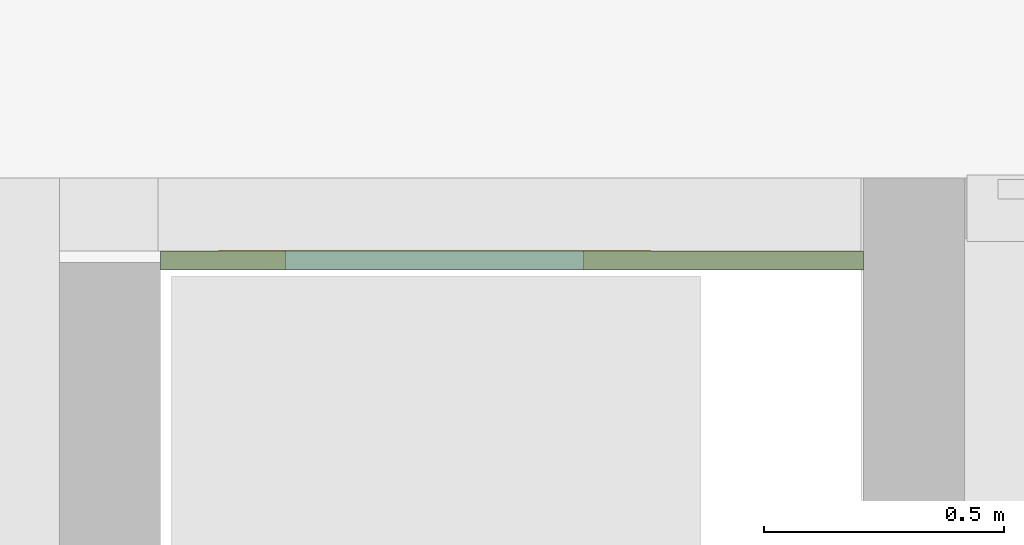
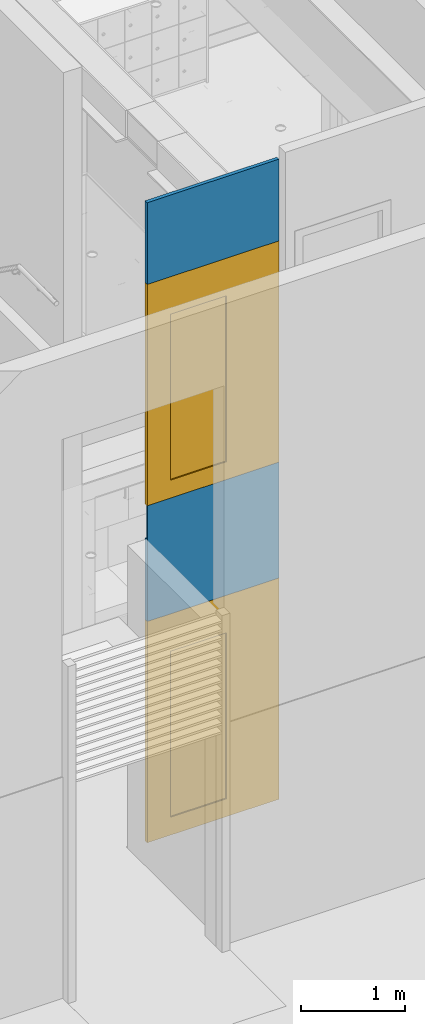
# One storey, part 60 of 347: 2 doors, 1 wall, 2 openings.
"""IFC2X3 building model written with IfcOpenShell, lengths in millimetres."""

from ifc_helpers import new_model, entity, si_unit, converted_unit, derived_unit, money_unit, direction, frame, origin_with_axes, place, context, subcontext, project, spatial, open_shell, faceted_brep, surface_model, source, transform, mapped, material, type_object, type_shapes, element, fill, save


model = new_model("IFC2X3")

# Units and contexts
model_context = context("Model", 3, precision=0.01, world=origin_with_axes(), true_north=direction((0.0, 1.0)))
plan_context = context("Plan", 3, precision=0.01, world=origin_with_axes(), true_north=direction((0.0, 1.0)))
body_context = subcontext(model_context, "Body", "Model", "MODEL_VIEW")
ifc_project = project(units=[si_unit("LENGTHUNIT", "METRE", prefix="MILLI"), si_unit("AREAUNIT", "SQUARE_METRE"), si_unit("VOLUMEUNIT", "CUBIC_METRE"), converted_unit("PLANEANGLEUNIT", "DEGREE", entity("IfcPlaneAngleMeasure", 0.0174532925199), si_unit("PLANEANGLEUNIT", "RADIAN"), dimensions=[0, 0, 0, 0, 0, 0, 0]), money_unit("EUR"), converted_unit("TIMEUNIT", "Year", entity("IfcTimeMeasure", 31556926.0), si_unit("TIMEUNIT", "SECOND"), dimensions=[0, 0, 1, 0, 0, 0, 0]), si_unit("MASSUNIT", "GRAM", prefix="KILO"), si_unit("THERMODYNAMICTEMPERATUREUNIT", "DEGREE_CELSIUS"), si_unit("LUMINOUSINTENSITYUNIT", "LUMEN"), si_unit("ENERGYUNIT", "JOULE", prefix="MEGA"), derived_unit("THERMALCONDUCTANCEUNIT", [(si_unit("POWERUNIT", "WATT"), 1), (si_unit("LENGTHUNIT", "METRE"), -1), (si_unit("THERMODYNAMICTEMPERATUREUNIT", "KELVIN"), -1)]), derived_unit("SPECIFICHEATCAPACITYUNIT", [(si_unit("ENERGYUNIT", "JOULE"), 1), (si_unit("MASSUNIT", "GRAM", prefix="KILO"), -1), (si_unit("THERMODYNAMICTEMPERATUREUNIT", "KELVIN"), -1)]), derived_unit("MASSDENSITYUNIT", [(si_unit("MASSUNIT", "GRAM", prefix="KILO"), 1), (si_unit("VOLUMEUNIT", "CUBIC_METRE"), -1)])], contexts=[model_context, plan_context])

# Site, building, storey
site_placement = place(None, origin_with_axes())
site = spatial("IfcSite", under=ifc_project, at=site_placement, Name="Site", CompositionType="ELEMENT")
building_placement = place(site_placement, origin_with_axes())
building = spatial("IfcBuilding", under=site, at=building_placement, Name="Naam gebouw", CompositionType="ELEMENT")
storey_placement = place(building_placement, origin_with_axes())
storey = spatial("IfcBuildingStorey", under=building, at=storey_placement, Name="begane grond", CompositionType="ELEMENT", Elevation=0.0)

# Wall, openings, doors
ifc_material = material(Name="ALG - CONSTRUCTIEF")
wall_type = type_object("IfcWallType", Name="ALG - CONSTRUCTIEF 40", PredefinedType="NOTDEFINED")
wall_placement = place(storey_placement, frame((41185.0, 27823.5, 0.0), z_axis=(0.0, 0.0, 1.0), x_axis=(1.0, 0.0, 0.0)))
wall = element("IfcWall", 1, at=wall_placement, inside=storey, type_object=wall_type, material=ifc_material, Name="22_GF 125 ECO DGS/2.75.2A", context=body_context, shape_type="Brep", body=[
    faceted_brep([(0.0, -23.4999901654, 3960.0), (1462.0, -23.4999901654, 3960.0), (1462.0, -23.4999901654, 3560.0), (0.0, -23.4999901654, 3560.0), (1462.0, -40.0, 3960.0), (0.0, -40.0, 3960.0), (1462.0, -40.0, 2600.0), (1462.0, 0.0, 2600.0), (1462.0, 0.0, 3560.0), (0.0, 0.0, 3560.0), (0.0, 0.0, 2600.0), (0.0, -40.0, 2600.0)], [[[0, 1, 2, 3]], [[4, 1, 0, 5]], [[1, 4, 6, 7, 8, 2]], [[8, 9, 3, 2]], [[5, 0, 3, 9, 10, 11]], [[4, 5, 11, 6]], [[7, 6, 11, 10]], [[10, 9, 8, 7]]]),
    faceted_brep([(1462.0, -40.0, 6560.0), (1462.0, 0.0, 6560.0), (1462.0, 0.0, 7520.0), (1462.0, -40.0, 7520.0), (0.0, 0.0, 6560.0), (0.0, -40.0, 6560.0), (0.0, 0.0, 7520.0), (0.0, -40.0, 7520.0)], [[[0, 1, 2, 3]], [[4, 1, 0, 5]], [[1, 4, 6, 2]], [[3, 2, 6, 7]], [[5, 0, 3, 7]], [[4, 5, 7, 6]]]),
])
opening_1_placement = place(wall_placement, frame((731.0, 0.0, 0.0), z_axis=(0.0, 0.0, 1.0), x_axis=(1.0, 0.0, 0.0)))
opening_1 = element("IfcOpeningElement", 2, at=opening_1_placement, cuts=wall, Name="32_Lift deur", context=body_context, shape_type="Brep", body=[
    faceted_brep([(731.0, -40.0, 2600.0), (731.0, -40.0, 0.0), (731.0, 80.0, 0.0), (731.0, 80.0, 2600.0), (-731.0, -40.0, 2600.0), (-731.0, -40.0, 0.0), (-731.0, 80.0, 0.0), (-731.0, 80.0, 2600.0)], [[[0, 1, 2, 3]], [[0, 4, 5, 1]], [[1, 5, 6, 2]], [[3, 2, 6, 7]], [[4, 0, 3, 7]], [[5, 4, 7, 6]]]),
])
opening_2_placement = place(wall_placement, frame((731.0, 0.0, 3960.0), z_axis=(0.0, 0.0, 1.0), x_axis=(1.0, 0.0, 0.0)))
opening_2 = element("IfcOpeningElement", 3, at=opening_2_placement, cuts=wall, Name="32_Lift deur", context=body_context, shape_type="Brep", body=[
    faceted_brep([(731.0, -40.0, 2600.0), (731.0, -40.0, 0.0), (731.0, 80.0, 0.0), (731.0, 80.0, 2600.0), (-731.0, -40.0, 2600.0), (-731.0, -40.0, 0.0), (-731.0, 80.0, 0.0), (-731.0, 80.0, 2600.0)], [[[0, 1, 2, 3]], [[0, 4, 5, 1]], [[1, 5, 6, 2]], [[3, 2, 6, 7]], [[4, 0, 3, 7]], [[5, 4, 7, 6]]]),
])
door_style = type_object("IfcDoorStyle", Name="D1 25", ConstructionType="NOTDEFINED", OperationType="SINGLE_SWING_RIGHT", ParameterTakesPrecedence=False, Sizeable=False)
shared_shape = source(origin_with_axes(), body_context, "Body", "SurfaceModel", [
    faceted_brep([(289.0, 0.0, 0.0), (289.0, -40.0, 0.0), (-611.0, -40.0, 0.0), (-611.0, 0.0, 0.0), (289.0, 0.0, 10.0), (289.0, -40.0, 10.0), (-611.0, -40.0, 10.0), (-611.0, 0.0, 10.0)], [[[0, 1, 2, 3]], [[0, 4, 5, 1]], [[1, 5, 6, 2]], [[3, 2, 6, 7]], [[4, 0, 3, 7]], [[5, 4, 7, 6]]]),
    faceted_brep([(-731.0, 0.0, 0.0), (-611.0, 0.0, 0.0), (-611.0, -40.0, 0.0), (-731.0, -40.0, 0.0), (-731.0, 0.0, 2300.0), (-611.0, 0.0, 2300.0), (-611.0, -40.0, 2300.0), (-731.0, -40.0, 2300.0)], [[[0, 1, 2, 3]], [[0, 4, 5, 1]], [[1, 5, 6, 2]], [[3, 2, 6, 7]], [[4, 0, 3, 7]], [[5, 4, 7, 6]]]),
    faceted_brep([(731.0, 0.0, 0.0), (731.0, 0.0, 2300.0), (731.0, -40.0, 2300.0), (731.0, -40.0, 0.0), (289.0, 0.0, 0.0), (289.0, 0.0, 2300.0), (289.0, -40.0, 2300.0), (289.0, -40.0, 0.0)], [[[0, 1, 2, 3]], [[0, 4, 5, 1]], [[1, 5, 6, 2]], [[3, 2, 6, 7]], [[4, 0, 3, 7]], [[5, 4, 7, 6]]]),
    faceted_brep([(-731.0, 0.0, 2600.0), (-731.0, 0.0, 2300.0), (-731.0, -40.0, 2300.0), (-731.0, -40.0, 2600.0), (731.0, 0.0, 2600.0), (731.0, 0.0, 2300.0), (289.0, 0.0, 2300.0), (-611.0, 0.0, 2300.0), (-611.0, -40.0, 2300.0), (289.0, -40.0, 2300.0), (731.0, -40.0, 2300.0), (731.0, -40.0, 2600.0)], [[[0, 1, 2, 3]], [[0, 4, 5, 6, 7, 1]], [[1, 7, 8, 2]], [[3, 2, 8, 9, 10, 11]], [[4, 0, 3, 11]], [[5, 4, 11, 10]], [[6, 5, 10, 9]], [[7, 6, 9, 8]]]),
    faceted_brep([(289.0, 1.0, 210.0), (289.0, -40.0, 210.0), (149.0, -40.0, 210.0), (149.0, 1.0, 210.0), (289.0, 1.0, 2160.0), (289.0, -40.0, 2160.0), (149.0, -40.0, 2160.0), (149.0, 1.0, 2160.0)], [[[0, 1, 2, 3]], [[4, 5, 1, 0]], [[1, 5, 6, 2]], [[3, 2, 6, 7]], [[0, 3, 7, 4]], [[7, 6, 5, 4]]]),
    faceted_brep([(-611.0, 1.0, 210.0), (-611.0, -40.0, 210.0), (-611.0, -40.0, 2160.0), (-611.0, 1.0, 2160.0), (-471.0, 1.0, 210.0), (-471.0, -40.0, 210.0), (-471.0, -40.0, 2160.0), (-471.0, 1.0, 2160.0)], [[[0, 1, 2, 3]], [[4, 5, 1, 0]], [[1, 5, 6, 2]], [[3, 2, 6, 7]], [[0, 3, 7, 4]], [[7, 6, 5, 4]]]),
    faceted_brep([(289.0, 1.0, 10.0), (289.0, -40.0, 10.0), (-611.0, -40.0, 10.0), (-611.0, 1.0, 10.0), (289.0, 1.0, 210.0), (289.0, -40.0, 210.0), (149.0, -40.0, 210.0), (-471.0, -40.0, 210.0), (-611.0, -40.0, 210.0), (-611.0, 1.0, 210.0), (-471.0, 1.0, 210.0), (149.0, 1.0, 210.0)], [[[0, 1, 2, 3]], [[4, 5, 1, 0]], [[1, 5, 6, 7, 8, 2]], [[3, 2, 8, 9]], [[0, 3, 9, 10, 11, 4]], [[11, 6, 5, 4]], [[10, 7, 6, 11]], [[9, 8, 7, 10]]]),
    faceted_brep([(289.0, 1.0, 2300.0), (289.0, -40.0, 2300.0), (289.0, -40.0, 2160.0), (289.0, 1.0, 2160.0), (-611.0, 1.0, 2300.0), (-611.0, -40.0, 2300.0), (-611.0, -40.0, 2160.0), (-471.0, -40.0, 2160.0), (149.0, -40.0, 2160.0), (149.0, 1.0, 2160.0), (-471.0, 1.0, 2160.0), (-611.0, 1.0, 2160.0)], [[[0, 1, 2, 3]], [[4, 5, 1, 0]], [[1, 5, 6, 7, 8, 2]], [[3, 2, 8, 9]], [[0, 3, 9, 10, 11, 4]], [[11, 6, 5, 4]], [[10, 7, 6, 11]], [[9, 8, 7, 10]]]),
    surface_model("IfcShellBasedSurfaceModel", [(149.0, -13.5, 210.0), (-471.0, -13.5, 210.0), (-471.0, -13.5, 2160.0), (149.0, -13.5, 2160.0)], [open_shell([[[0, 1, 2, 3]]])]),
    surface_model("IfcShellBasedSurfaceModel", [(149.0, -25.5, 210.0), (149.0, -25.5, 2160.0), (-471.0, -25.5, 2160.0), (-471.0, -25.5, 210.0)], [open_shell([[[0, 1, 2, 3]]])]),
])
type_shapes(door_style, [shared_shape])
door_1_placement = place(opening_1_placement, frame((-731.0, 0.0, 0.0), z_axis=(0.0, 0.0, 1.0), x_axis=(1.0, 0.0, 0.0)))
door_1 = element("IfcDoor", 4, at=door_1_placement, inside=storey, type_object=door_style, Name="32_Lift deur", ObjectType="DOOR", OverallHeight=2600.0, OverallWidth=1462.0, context=body_context, shape_type="MappedRepresentation", body=[
    mapped(shared_shape, transform((731.0, 0.0, 0.0))),
])
fill(opening_1, door_1)
door_2_placement = place(opening_2_placement, frame((-731.0, 0.0, 0.0), z_axis=(0.0, 0.0, 1.0), x_axis=(1.0, 0.0, 0.0)))
door_2 = element("IfcDoor", 5, at=door_2_placement, inside=storey, type_object=door_style, Name="32_Lift deur", ObjectType="DOOR", OverallHeight=2600.0, OverallWidth=1462.0, context=body_context, shape_type="MappedRepresentation", body=[
    mapped(shared_shape, transform((731.0, 0.0, 0.0))),
])
fill(opening_2, door_2)

save(model, "model.ifc")
